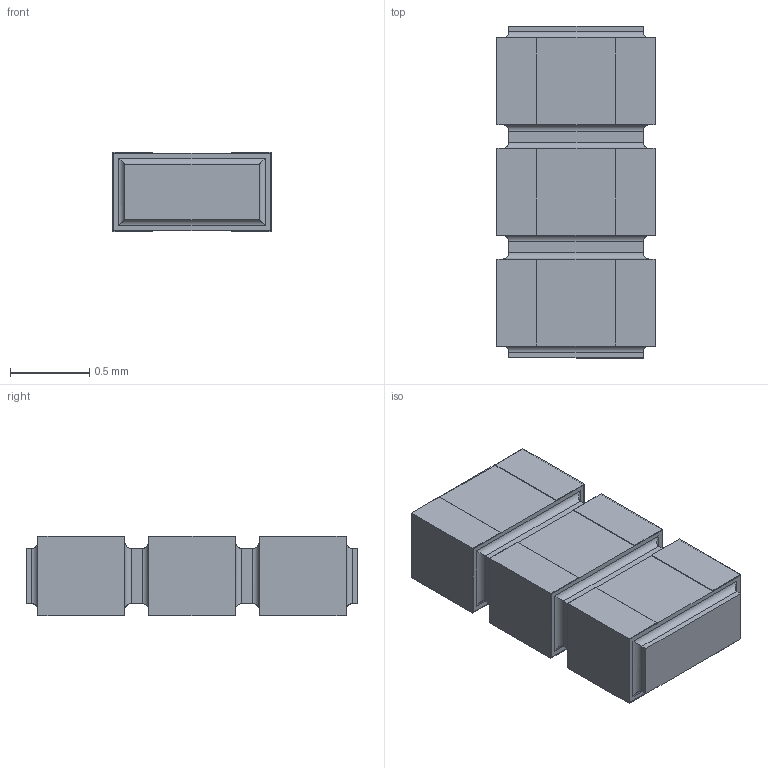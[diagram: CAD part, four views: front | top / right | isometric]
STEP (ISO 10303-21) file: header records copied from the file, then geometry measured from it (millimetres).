
FILE_DESCRIPTION(/* description */ (''),/* implementation_level */ '2;1');
FILE_NAME(/* name */ 'S:\DOCUMENT\AUTOCAD\3D_Modèles\10_3D-pour-VISHAY-COM\PRA\PRA074\PRA074-I2_à_I8\10_IGES\PRA074I3_B-or-N-or-G.stp',/* time_stamp */ '2017-12-19T14:52:26+01:00',/* author */ ('dparmentier'),/* organization */ ('unknown'),/* preprocessor_version */ 'ST-DEVELOPER v17',/* originating_system */ 'Autodesk Inventor 2018',/* authorisation */ '');
FILE_SCHEMA (('AUTOMOTIVE_DESIGN { 1 0 10303 214 3 1 1 }'));
Length unit declared in the file: millimetre
Products named in the file (1): PRA074I3_B-or-N-or-G
Bounding box: 1 x 2.1 x 0.5 mm (x, y, z)
Volume: 1 mm3; surface area: 14.1 mm2
Topology: 7 solids, 7 shells, 120 faces, 276 edges, 176 vertices
Faces by surface type: plane 96, cylinder 24
Entity records: 3359 total; most frequent: CARTESIAN_POINT 573, ORIENTED_EDGE 552, DIRECTION 542, EDGE_CURVE 276, LINE 252, VECTOR 252, VERTEX_POINT 176, AXIS2_PLACEMENT_3D 145
